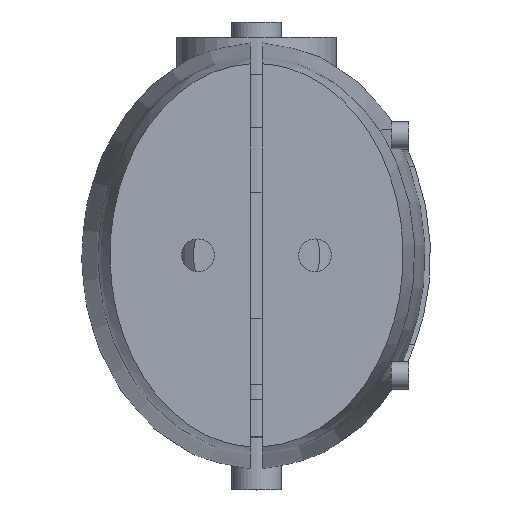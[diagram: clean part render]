
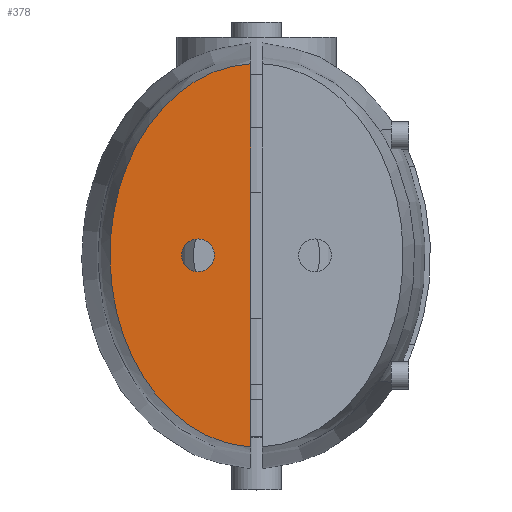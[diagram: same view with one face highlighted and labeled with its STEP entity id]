
A CAD part, top view. The second image highlights one B-rep face of the part: STEP entity #378.
In plain terms, the highlighted planar face has unit normal (0, 0, 1).
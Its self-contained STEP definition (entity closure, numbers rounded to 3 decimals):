
#86 = VERTEX_POINT('',#87);
#87 = CARTESIAN_POINT('',(-0.25,8.183,18.2));
#185 = VERTEX_POINT('',#186);
#186 = CARTESIAN_POINT('',(-0.25,-8.183,18.2));
#263 = EDGE_CURVE('',#86,#185,#264,.T.);
#264 = B_SPLINE_CURVE_WITH_KNOTS('',14,(#265,#266,#267,#268,#269,#270,
    #271,#272,#273,#274,#275,#276,#277,#278,#279),.UNSPECIFIED.,.T.,.F.,
  (15,15),(0.,1.),.PIECEWISE_BEZIER_KNOTS.);
#265 = CARTESIAN_POINT('',(0.,8.19,18.2));
#266 = CARTESIAN_POINT('',(-2.811,8.19,18.2));
#267 = CARTESIAN_POINT('',(-5.623,6.413,18.2));
#268 = CARTESIAN_POINT('',(-7.722,2.86,18.2));
#269 = CARTESIAN_POINT('',(-8.399,-1.938,18.2));
#270 = CARTESIAN_POINT('',(-7.197,-6.919,18.2));
#271 = CARTESIAN_POINT('',(-4.171,-10.721,18.2));
#272 = CARTESIAN_POINT('',(0.,-12.153,18.2));
#273 = CARTESIAN_POINT('',(4.171,-10.721,18.2));
#274 = CARTESIAN_POINT('',(7.197,-6.919,18.2));
#275 = CARTESIAN_POINT('',(8.399,-1.938,18.2));
#276 = CARTESIAN_POINT('',(7.722,2.86,18.2));
#277 = CARTESIAN_POINT('',(5.623,6.413,18.2));
#278 = CARTESIAN_POINT('',(2.811,8.19,18.2));
#279 = CARTESIAN_POINT('',(0.,8.19,18.2));
#367 = EDGE_CURVE('',#86,#185,#368,.T.);
#368 = LINE('',#369,#370);
#369 = CARTESIAN_POINT('',(-0.25,-13.405,18.2));
#370 = VECTOR('',#371,1.);
#371 = DIRECTION('',(0.,-1.,0.));
#378 = ADVANCED_FACE('',(#379,#383),#394,.F.);
#379 = FACE_BOUND('',#380,.F.);
#380 = EDGE_LOOP('',(#381,#382));
#381 = ORIENTED_EDGE('',*,*,#263,.F.);
#382 = ORIENTED_EDGE('',*,*,#367,.T.);
#383 = FACE_BOUND('',#384,.F.);
#384 = EDGE_LOOP('',(#385));
#385 = ORIENTED_EDGE('',*,*,#386,.T.);
#386 = EDGE_CURVE('',#387,#387,#389,.T.);
#387 = VERTEX_POINT('',#388);
#388 = CARTESIAN_POINT('',(-1.8,0.,18.2));
#389 = CIRCLE('',#390,0.7);
#390 = AXIS2_PLACEMENT_3D('',#391,#392,#393);
#391 = CARTESIAN_POINT('',(-2.5,0.,18.2));
#392 = DIRECTION('',(0.,0.,1.));
#393 = DIRECTION('',(1.,0.,-0.));
#394 = PLANE('',#395);
#395 = AXIS2_PLACEMENT_3D('',#396,#397,#398);
#396 = CARTESIAN_POINT('',(0.,8.19,18.2));
#397 = DIRECTION('',(0.,0.,-1.));
#398 = DIRECTION('',(0.,-1.,-0.));
